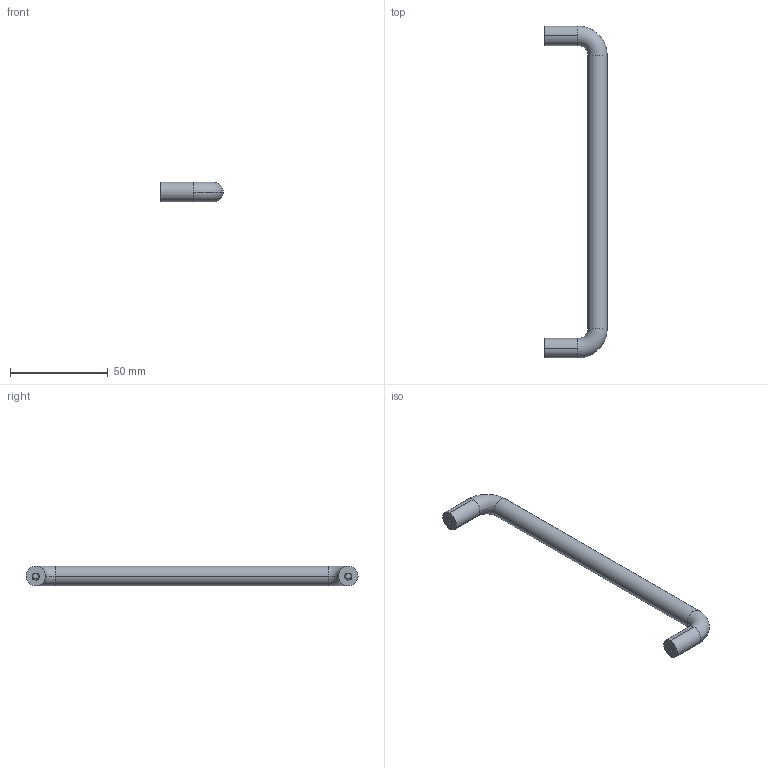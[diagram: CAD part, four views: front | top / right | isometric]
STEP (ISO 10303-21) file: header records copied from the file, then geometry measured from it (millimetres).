
FILE_DESCRIPTION (( 'STEP AP203' ), '1' );
FILE_NAME ('196-CE-HDR-160.STEP', '2015-07-09T09:21:47', ( '' ), ( '' ), 'SwSTEP 2.0', 'SolidWorks 2013', '' );
FILE_SCHEMA (( 'CONFIG_CONTROL_DESIGN' ));
Length unit declared in the file: millimetre
Products named in the file (1): 196-CE-HDR-160
Bounding box: 32 x 170 x 10 mm (x, y, z)
Volume: 16033.1 mm3; surface area: 6793.9 mm2
Topology: 1 solids, 1 shells, 42 faces, 110 edges, 72 vertices
Faces by surface type: cylinder 30, torus 4, plane 4, bspline 4
Entity records: 2709 total; most frequent: CARTESIAN_POINT 1737, ORIENTED_EDGE 220, DIRECTION 162, EDGE_CURVE 110, VERTEX_POINT 72, AXIS2_PLACEMENT_3D 67, EDGE_LOOP 44, FACE_OUTER_BOUND 42
